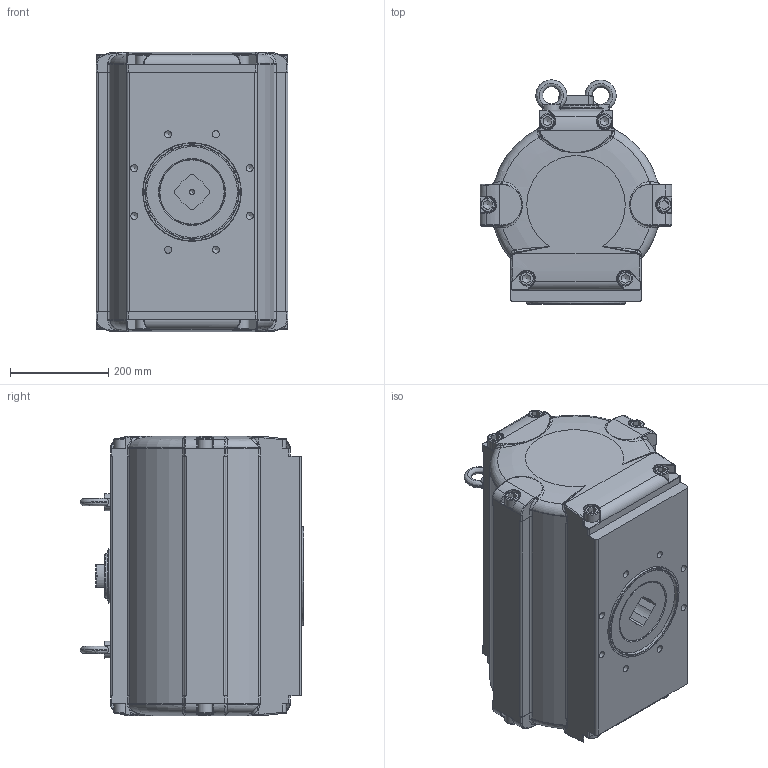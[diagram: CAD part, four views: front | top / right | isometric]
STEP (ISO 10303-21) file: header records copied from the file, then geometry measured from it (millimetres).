
FILE_DESCRIPTION(/* description */ (''),/* implementation_level */ '2;1');
FILE_NAME(/* name */ 'C:\Users\war\Desktop\BR03C_SAD_50.stp',/* time_stamp */ '2021-05-05T11:19:30+02:00',/* author */ ('war'),/* organization */ (''),/* preprocessor_version */ 'ST-DEVELOPER v18.1',/* originating_system */ 'Autodesk Inventor 2021',/* authorisation */ '');
FILE_SCHEMA (('AUTOMOTIVE_DESIGN { 1 0 10303 214 3 1 1 }'));
Length unit declared in the file: millimetre
Products named in the file (1): ENG-040010_Shrinkwrap_1
Bounding box: 390 x 455 x 567 mm (x, y, z)
Volume: 24925980.9 mm3; surface area: 2081444.2 mm2
Topology: 1 solids, 1 shells, 1740 faces, 4415 edges, 2672 vertices
Faces by surface type: cylinder 553, bspline 403, plane 355, torus 347, cone 74, sphere 8
Full cylindrical faces by diameter (mm): 3.5 x2, 4.134 x4, 4.917 x5, 10 x2, 10.106 x1, 14.376 x8, 16 x2, 18.631 x2, 30 x12, 45 x4, 70 x1, 81.2 x2, 84.9 x1, 85 x1, 89.6 x3, 90 x2, 90.1 x1, 100 x1, 105 x1, 110 x1, 123.2 x2, 127 x1, 130 x1, 131.6 x3, 132 x2, 190 x1, 199.6 x1, 315 x1, 320 x2
Entity records: 77361 total; most frequent: CARTESIAN_POINT 36435, ORIENTED_EDGE 8682, DIRECTION 7564, EDGE_CURVE 4341, AXIS2_PLACEMENT_3D 3173, VERTEX_POINT 2672, EDGE_LOOP 1833, STYLED_ITEM 1741
